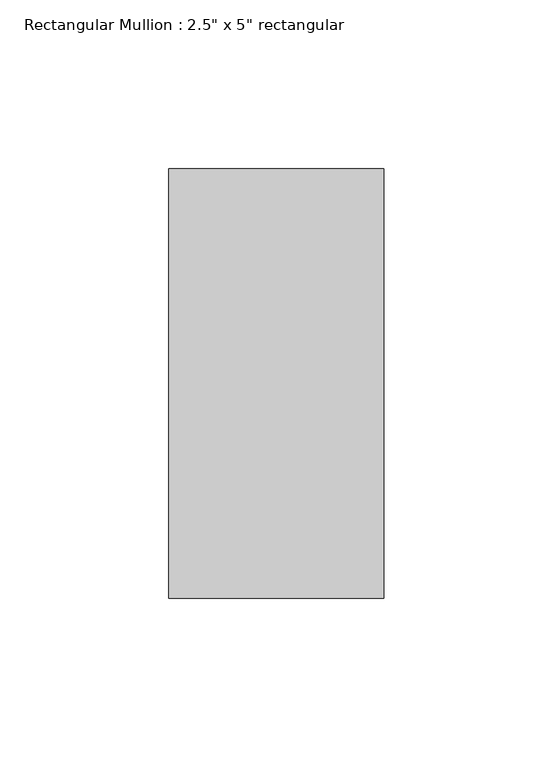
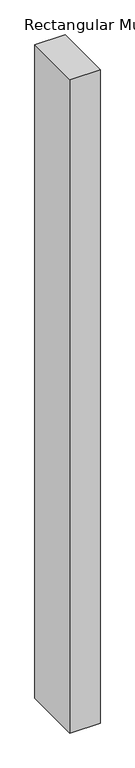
"""IFC4 building model written with IfcOpenShell, lengths in millimetres: member geometry."""

from ifc_helpers import new_model, si_unit, frame, origin, place, context, project, spatial, polyline, outline, extrude, source, transform, mapped, element, save


def member_fddf5610(model_context):
    return source(origin(), model_context, "Body", "SweptSolid", [
        extrude(outline(polyline([(0.0, 50.8), (0.0, -76.2), (-63.5, -76.2), (-63.5, 50.8), (0.0, 50.8)])), frame((0.0, 0.0, -1450.975), z_axis=(0.0, 0.0, 1.0), x_axis=(1.0, 0.0, 0.0)), (0.0, 0.0, 1.0), 1450.975),
    ])


if __name__ == "__main__":
    model = new_model("IFC4")
    model_context = context("Model", 3, world=origin())
    ifc_project = project(units=[si_unit("LENGTHUNIT", "METRE", prefix="MILLI")], contexts=[model_context])
    site = spatial("IfcSite", under=ifc_project)
    building = spatial("IfcBuilding", under=site)
    placement = place(None, origin())
    member_shape = member_fddf5610(model_context)
    element("IfcMember", 1, ObjectType="Rectangular Mullion : 2.5\" x 5\" rectangular", at=placement, inside=building, context=model_context, shape_type="MappedRepresentation", body=[
        mapped(member_shape, transform((0.0, 0.0, 0.0), x_axis=(1.0, 0.0, 0.0), y_axis=(0.0, 1.0, 0.0), z_axis=(0.0, 0.0, 1.0))),
    ])
    save(model, "model.ifc")
